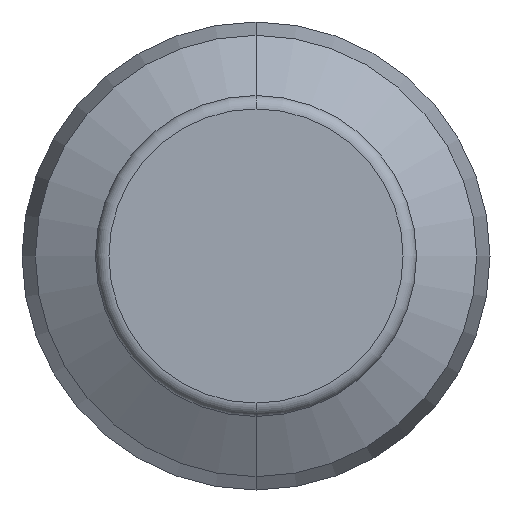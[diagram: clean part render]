
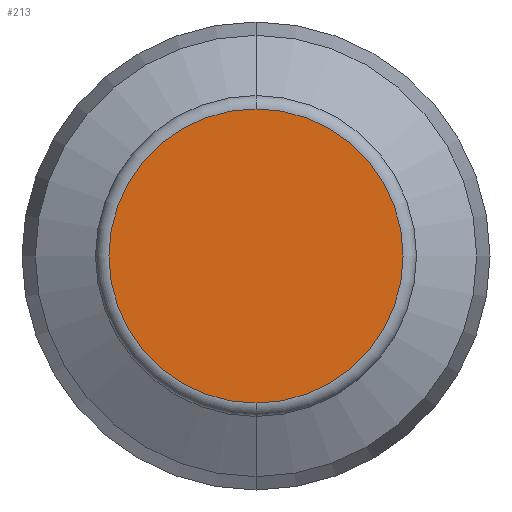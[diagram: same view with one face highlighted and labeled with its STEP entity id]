
A CAD part, front view. The second image highlights one B-rep face of the part: STEP entity #213.
In plain terms, the highlighted planar face has unit normal (0, -1, 0).
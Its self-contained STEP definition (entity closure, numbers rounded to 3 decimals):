
#135 = PLANE ( 'NONE',  #1474 ) ;
#149 = CIRCLE ( 'NONE', #565, 5.5 ) ;
#196 = ORIENTED_EDGE ( 'NONE', *, *, #1801, .T. ) ;
#213 = ADVANCED_FACE ( 'NONE', ( #983 ), #135, .T. ) ;
#295 = CARTESIAN_POINT ( 'NONE',  ( 0., 0., 0. ) ) ;
#306 = CARTESIAN_POINT ( 'NONE',  ( 0., 0., -5.5 ) ) ;
#325 = DIRECTION ( 'NONE',  ( 0., -1., 0. ) ) ;
#437 = DIRECTION ( 'NONE',  ( 0., -1., 0. ) ) ;
#458 = AXIS2_PLACEMENT_3D ( 'NONE', #1161, #325, #1296 ) ;
#565 = AXIS2_PLACEMENT_3D ( 'NONE', #1335, #1330, #1199 ) ;
#583 = DIRECTION ( 'NONE',  ( 0., 0., -1. ) ) ;
#716 = VERTEX_POINT ( 'NONE', #959 ) ;
#959 = CARTESIAN_POINT ( 'NONE',  ( 0., 0., 5.5 ) ) ;
#983 = FACE_OUTER_BOUND ( 'NONE', #1030, .T. ) ;
#1030 = EDGE_LOOP ( 'NONE', ( #1634, #196 ) ) ;
#1089 = CIRCLE ( 'NONE', #458, 5.5 ) ;
#1110 = VERTEX_POINT ( 'NONE', #306 ) ;
#1161 = CARTESIAN_POINT ( 'NONE',  ( 0., 0., 0. ) ) ;
#1178 = EDGE_CURVE ( 'NONE', #1110, #716, #149, .T. ) ;
#1199 = DIRECTION ( 'NONE',  ( 0., 0., -1. ) ) ;
#1296 = DIRECTION ( 'NONE',  ( 0., 0., -1. ) ) ;
#1330 = DIRECTION ( 'NONE',  ( 0., -1., 0. ) ) ;
#1335 = CARTESIAN_POINT ( 'NONE',  ( 0., 0., 0. ) ) ;
#1474 = AXIS2_PLACEMENT_3D ( 'NONE', #295, #437, #583 ) ;
#1634 = ORIENTED_EDGE ( 'NONE', *, *, #1178, .T. ) ;
#1801 = EDGE_CURVE ( 'NONE', #716, #1110, #1089, .T. ) ;
